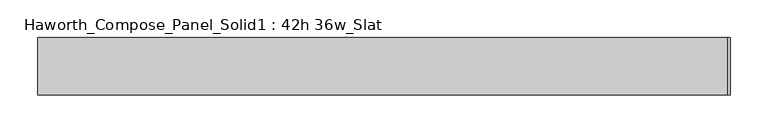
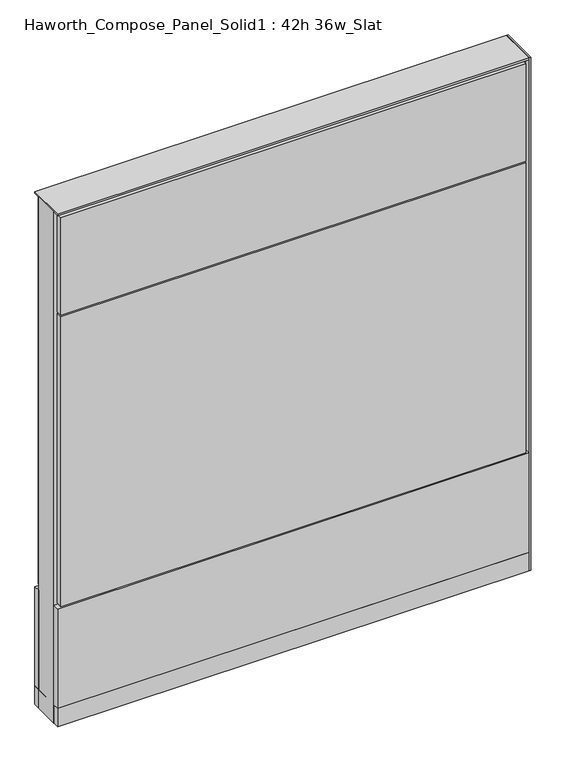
"""IFC4 building model written with IfcOpenShell, lengths in millimetres: furniture geometry, Haworth_Compose_Panel_Solid1 : 42h 36w_Slat."""

import ifcopenshell
import ifcopenshell.guid

model = None  # the IFC model being written
_history = None  # IfcOwnerHistory: only IFC2X3 demands one
_inside = {}  # id of a spatial element -> (the spatial element, [elements in it])
_under = {}  # id of a project, library or spatial element -> (it, [spatial elements below it])
_declared = {}  # id of a project -> (the project, [libraries it declares])
_typed = {}  # id of a type object -> (the type object, [elements of that type])
_made_of = {}  # id of a material, layer set ... -> (it, [elements and type objects made of it])


def new_model(schema):
    """Start an empty IFC model of exactly this schema.

    Asked for "IFC4X3", IfcOpenShell would pick the latest addendum, in which some entities
    have other attributes; the version numbers below select the first issue.
    IFC2X3 requires an IfcOwnerHistory on every rooted entity: one is made here for all.
    """
    global model, _history
    if schema == "IFC4X3":
        model = ifcopenshell.file(schema_version=(4, 3, 0, 0))
    else:
        model = ifcopenshell.file(schema=schema)
    _inside.clear()
    _under.clear()
    _declared.clear()
    _typed.clear()
    _made_of.clear()
    _history = None
    if model.schema == "IFC2X3":
        org = make("IfcOrganization", Name="unknown")
        user = make(
            "IfcPersonAndOrganization",
            ThePerson=make("IfcPerson", FamilyName="unknown"),
            TheOrganization=org,
        )
        app = make(
            "IfcApplication",
            ApplicationDeveloper=org,
            Version="unknown",
            ApplicationFullName="unknown",
            ApplicationIdentifier="unknown",
        )
        _history = make(
            "IfcOwnerHistory",
            OwningUser=user,
            OwningApplication=app,
            ChangeAction="ADDED",
            CreationDate=0,
        )
    return model


def make(cls, **values):
    """One entity of the class cls with the attributes given. An attribute that is None is left unset."""
    return model.create_entity(
        cls, **{name: value for name, value in values.items() if value is not None}
    )


def rooted(cls, **values):
    """An entity with a GlobalId (a new one), such as an element, a storey or a relation."""
    return make(cls, GlobalId=ifcopenshell.guid.new(), OwnerHistory=_history, **values)


def si_unit(unit_type, name, prefix=None):
    """IfcSIUnit, for example si_unit("LENGTHUNIT", "METRE", prefix="MILLI")."""
    return make("IfcSIUnit", UnitType=unit_type, Prefix=prefix, Name=name)


def assignment(units):
    """IfcUnitAssignment: the units of a project."""
    return None if units is None else make("IfcUnitAssignment", Units=units)


def point(xyz):
    """IfcCartesianPoint."""
    return None if xyz is None else make("IfcCartesianPoint", Coordinates=xyz)


def direction(xyz):
    """IfcDirection."""
    return None if xyz is None else make("IfcDirection", DirectionRatios=xyz)


def frame(location, z_axis=None, x_axis=None):
    """IfcAxis2Placement3D, a coordinate frame: its origin and axes. An axis left out is left unset."""
    return make(
        "IfcAxis2Placement3D",
        Location=point(location),
        Axis=direction(z_axis),
        RefDirection=direction(x_axis),
    )


def frame_2d(location, x_axis=None):
    """IfcAxis2Placement2D, a coordinate frame in the plane: its origin and x axis."""
    return make(
        "IfcAxis2Placement2D", Location=point(location), RefDirection=direction(x_axis)
    )


def origin():
    """The frame at (0, 0, 0) with its axes left unset."""
    return frame((0.0, 0.0, 0.0))


def origin_with_axes():
    """The frame at (0, 0, 0) with the z axis (0, 0, 1) and the x axis (1, 0, 0) written out."""
    return frame((0.0, 0.0, 0.0), z_axis=(0.0, 0.0, 1.0), x_axis=(1.0, 0.0, 0.0))


def place(relative_to, where):
    """IfcLocalPlacement: puts the frame where relative to a parent placement (None: the world)."""
    return make(
        "IfcLocalPlacement", PlacementRelTo=relative_to, RelativePlacement=where
    )


def context(
    kind, dimensions, precision=None, world=None, true_north=None, identifier=None
):
    """IfcGeometricRepresentationContext, for example the 3D "Model" context."""
    return make(
        "IfcGeometricRepresentationContext",
        ContextIdentifier=identifier,
        ContextType=kind,
        CoordinateSpaceDimension=dimensions,
        Precision=precision,
        WorldCoordinateSystem=world,
        TrueNorth=true_north,
    )


def project(units=None, contexts=None):
    """IfcProject with its units and contexts."""
    return rooted(
        "IfcProject",
        Name="project",
        RepresentationContexts=contexts,
        UnitsInContext=assignment(units),
    )


def spatial(cls, under=None, at=None, **own):
    """A site, building, storey or space (cls), placed at a placement, below another one or the project."""
    s = rooted(cls, ObjectPlacement=at, **own)
    if under is not None:
        _under.setdefault(under.id(), (under, []))[1].append(s)
    return s


def polyline(points):
    """IfcPolyline through the points."""
    return make("IfcPolyline", Points=[point(p) for p in points])


def circle_curve(where, radius):
    """IfcCircle in the frame where."""
    return make("IfcCircle", Position=where, Radius=radius)


def trimmed(basis, trim1, trim2, sense, master):
    """IfcTrimmedCurve: the piece of a basis curve between two trims."""
    return make(
        "IfcTrimmedCurve",
        BasisCurve=basis,
        Trim1=trim1,
        Trim2=trim2,
        SenseAgreement=sense,
        MasterRepresentation=master,
    )


def segment(curve, same_sense, transition):
    """IfcCompositeCurveSegment."""
    return make(
        "IfcCompositeCurveSegment",
        Transition=transition,
        SameSense=same_sense,
        ParentCurve=curve,
    )


def composite_curve(segments, self_intersect=None):
    """IfcCompositeCurve: segments joined end to end."""
    return make("IfcCompositeCurve", Segments=segments, SelfIntersect=self_intersect)


def outline(outer, holes=None, kind="AREA"):
    """IfcArbitraryClosedProfileDef: a profile drawn as a closed curve; with holes, ...WithVoids."""
    if holes is None:
        return make("IfcArbitraryClosedProfileDef", ProfileType=kind, OuterCurve=outer)
    return make(
        "IfcArbitraryProfileDefWithVoids",
        ProfileType=kind,
        OuterCurve=outer,
        InnerCurves=holes,
    )


def extrude(swept, where, along, depth):
    """IfcExtrudedAreaSolid: the profile swept, set in the frame where, extruded along a direction by depth."""
    return make(
        "IfcExtrudedAreaSolid",
        SweptArea=swept,
        Position=where,
        ExtrudedDirection=direction(along),
        Depth=depth,
    )


def shape(context_of_items, identifier, shape_type, items):
    """IfcShapeRepresentation: the items that make up one representation, for example the "Body"."""
    return make(
        "IfcShapeRepresentation",
        ContextOfItems=context_of_items,
        RepresentationIdentifier=identifier,
        RepresentationType=shape_type,
        Items=items,
    )


def source(mapping_origin, context_of_items, identifier, shape_type, items):
    """IfcRepresentationMap: a shape defined once, which mapped items show again and again."""
    return make(
        "IfcRepresentationMap",
        MappingOrigin=mapping_origin,
        MappedRepresentation=shape(context_of_items, identifier, shape_type, items),
    )


def transform(
    local_origin,
    x_axis=None,
    y_axis=None,
    z_axis=None,
    scale=None,
    scale2=None,
    scale3=None,
    uniform=True,
):
    """IfcCartesianTransformationOperator3D, or its non-uniform kind. x_axis, y_axis, z_axis: its Axis1, 2, 3."""
    if uniform:
        return make(
            "IfcCartesianTransformationOperator3D",
            Axis1=direction(x_axis),
            Axis2=direction(y_axis),
            LocalOrigin=point(local_origin),
            Scale=scale,
            Axis3=direction(z_axis),
        )
    return make(
        "IfcCartesianTransformationOperator3DnonUniform",
        Axis1=direction(x_axis),
        Axis2=direction(y_axis),
        LocalOrigin=point(local_origin),
        Scale=scale,
        Axis3=direction(z_axis),
        Scale2=scale2,
        Scale3=scale3,
    )


def mapped(mapping_source, mapping_target):
    """IfcMappedItem: shows the shape of a source again, moved by a transform."""
    return make(
        "IfcMappedItem", MappingSource=mapping_source, MappingTarget=mapping_target
    )


def made_of(thing, what):
    """Note that an element or type object is made of a material, layer set ...; save() writes the relation."""
    if what is not None:
        _made_of.setdefault(what.id(), (what, []))[1].append(thing)
    return thing


def element(
    cls,
    number,
    at=None,
    inside=None,
    cuts=None,
    type_object=None,
    material=None,
    context=None,
    identifier="Body",
    shape_type=None,
    held_by="IfcProductDefinitionShape",
    body=None,
    shapes=None,
    **own,
):
    """One element of the class cls, such as IfcWall. Its Tag is "e" and its number.

    at: its placement. inside: the storey or other place that contains it. cuts: it is an
    opening in that element (IfcRelVoidsElement). A single representation is given by context,
    identifier, shape_type and body (its items); several are given by shapes. held_by: the class
    of the entity that holds the representations. save() writes the other relations.
    """
    e = rooted(cls, Tag="e%d" % number, ObjectPlacement=at, **own)
    if body is not None:
        shapes = [shape(context, identifier, shape_type, body)]
    if shapes is not None:
        e.Representation = make(held_by, Representations=shapes)
    if inside is not None:
        _inside.setdefault(inside.id(), (inside, []))[1].append(e)
    if cuts is not None:
        rooted(
            "IfcRelVoidsElement", RelatingBuildingElement=cuts, RelatedOpeningElement=e
        )
    if type_object is not None:
        _typed.setdefault(type_object.id(), (type_object, []))[1].append(e)
    return made_of(e, material)


def aggregate(whole, parts):
    """IfcRelAggregates: a whole, such as a stair, and the parts it consists of."""
    return rooted("IfcRelAggregates", RelatingObject=whole, RelatedObjects=parts)


def save(model, path):
    """Write the relations noted so far, then the file.

    IfcRelAggregates (storeys below a building ...), IfcRelContainedInSpatialStructure (elements
    in a storey), IfcRelDefinesByType, IfcRelAssociatesMaterial and IfcRelDeclares: one each for
    every whole, place, type object, material and project.
    """
    for whole, parts in _under.values():
        aggregate(whole, parts)
    for where, things in _inside.values():
        rooted(
            "IfcRelContainedInSpatialStructure",
            RelatedElements=things,
            RelatingStructure=where,
        )
    for kind, things in _typed.values():
        rooted("IfcRelDefinesByType", RelatedObjects=things, RelatingType=kind)
    for what, things in _made_of.values():
        rooted("IfcRelAssociatesMaterial", RelatedObjects=things, RelatingMaterial=what)
    for by, libraries in _declared.values():
        rooted("IfcRelDeclares", RelatingContext=by, RelatedDefinitions=libraries)
    model.write(path)


def haworth_compose_panel_solid1_42h_36w_slat_61d626ed(model_context):
    return source(origin(), model_context, "Body", "SweptSolid", [
        extrude(outline(composite_curve([segment(trimmed(circle_curve(frame_2d((-378.5597098, 0.0)), 12.7), [point((-391.2597098, 0.0))], [point((-365.8597098, 0.0))], False, "CARTESIAN"), True, "CONTINUOUS"), segment(trimmed(circle_curve(frame_2d((-378.5597098, 0.0)), 12.7), [point((-365.8597098, 0.0))], [point((-391.2597098, 0.0))], False, "CARTESIAN"), True, "CONTINUOUS")], self_intersect=False)), origin_with_axes(), (0.0, 0.0, 1.0), 12.7),
        extrude(outline(composite_curve([segment(trimmed(circle_curve(frame_2d((383.4402902, 0.0)), 12.7), [point((370.7402902, 0.0))], [point((396.1402902, 0.0))], False, "CARTESIAN"), True, "CONTINUOUS"), segment(trimmed(circle_curve(frame_2d((383.4402902, 0.0)), 12.7), [point((396.1402902, 0.0))], [point((370.7402902, 0.0))], False, "CARTESIAN"), True, "CONTINUOUS")], self_intersect=False)), origin_with_axes(), (0.0, 0.0, 1.0), 12.7),
        extrude(outline(polyline([(462.8152902, -38.1), (459.6402902, -38.1), (459.6402902, 38.1), (462.8152902, 38.1), (462.8152902, -38.1)])), frame((0.0, 0.0, 12.7), z_axis=(0.0, 0.0, 1.0), x_axis=(1.0, 0.0, 0.0)), (0.0, 0.0, 1.0), 1050.925),
        extrude(outline(polyline([(453.2902902, -38.1), (-448.4097098, -38.1), (-448.4097098, -25.4), (453.2902902, -25.4), (453.2902902, -38.1)])), frame((0.0, 0.0, 854.075), z_axis=(0.0, 0.0, 1.0), x_axis=(1.0, 0.0, 0.0)), (0.0, 0.0, 1.0), 200.025),
        extrude(outline(polyline([(453.2902902, -38.1), (-448.4097098, -38.1), (-448.4097098, -25.4), (453.2902902, -25.4), (453.2902902, -38.1)])), frame((0.0, 0.0, 257.175), z_axis=(0.0, 0.0, 1.0), x_axis=(1.0, 0.0, 0.0)), (0.0, 0.0, 1.0), 593.725),
        extrude(outline(polyline([(459.6402902, -38.1), (-454.7597098, -38.1), (-454.7597098, -25.4), (459.6402902, -25.4), (459.6402902, -38.1)])), frame((0.0, 0.0, 50.8), z_axis=(0.0, 0.0, 1.0), x_axis=(1.0, 0.0, 0.0)), (0.0, 0.0, 1.0), 203.2),
        extrude(outline(polyline([(459.6402902, 38.1), (459.6402902, 25.4), (-454.7597098, 25.4), (-454.7597098, 38.1), (459.6402902, 38.1)])), frame((0.0, 0.0, 50.8), z_axis=(0.0, 0.0, 1.0), x_axis=(1.0, 0.0, 0.0)), (0.0, 0.0, 1.0), 203.2),
        extrude(outline(polyline([(453.2902902, 38.1), (453.2902902, 25.4), (-448.4097098, 25.4), (-448.4097098, 38.1), (453.2902902, 38.1)])), frame((0.0, 0.0, 257.175), z_axis=(0.0, 0.0, 1.0), x_axis=(1.0, 0.0, 0.0)), (0.0, 0.0, 1.0), 796.925),
        extrude(outline(polyline([(459.6402902, -25.4), (-454.7597098, -25.4), (-454.7597098, 25.4), (459.6402902, 25.4), (459.6402902, -25.4)])), frame((0.0, 0.0, 12.7), z_axis=(0.0, 0.0, 1.0), x_axis=(1.0, 0.0, 0.0)), (0.0, 0.0, 1.0), 1047.75),
        extrude(outline(polyline([(-454.7597098, 38.1), (459.6402902, 38.1), (459.6402902, -38.1), (-454.7597098, -38.1), (-454.7597098, 38.1)])), frame((0.0, 0.0, 12.7), z_axis=(0.0, 0.0, 1.0), x_axis=(1.0, 0.0, 0.0)), (0.0, 0.0, 1.0), 38.1),
        extrude(outline(polyline([(-454.7597098, 38.1), (459.6402902, 38.1), (459.6402902, -38.1), (-454.7597098, -38.1), (-454.7597098, 38.1)])), frame((0.0, 0.0, 1060.45), z_axis=(0.0, 0.0, 1.0), x_axis=(1.0, 0.0, 0.0)), (0.0, 0.0, 1.0), 3.175),
    ])


if __name__ == "__main__":
    model = new_model("IFC4")
    model_context = context("Model", 3, world=origin())
    ifc_project = project(units=[si_unit("LENGTHUNIT", "METRE", prefix="MILLI")], contexts=[model_context])
    site = spatial("IfcSite", under=ifc_project)
    building = spatial("IfcBuilding", under=site)
    placement = place(None, origin())
    haworth_compose_panel_solid1_42h_36w_slat_shape = haworth_compose_panel_solid1_42h_36w_slat_61d626ed(model_context)
    element("IfcFurniture", 1, ObjectType="Haworth_Compose_Panel_Solid1 : 42h 36w_Slat", at=placement, inside=building, context=model_context, shape_type="MappedRepresentation", body=[
        mapped(haworth_compose_panel_solid1_42h_36w_slat_shape, transform((0.0, 0.0, 0.0), x_axis=(1.0, 0.0, 0.0), y_axis=(0.0, 1.0, 0.0), z_axis=(0.0, 0.0, 1.0))),
    ])
    save(model, "model.ifc")
